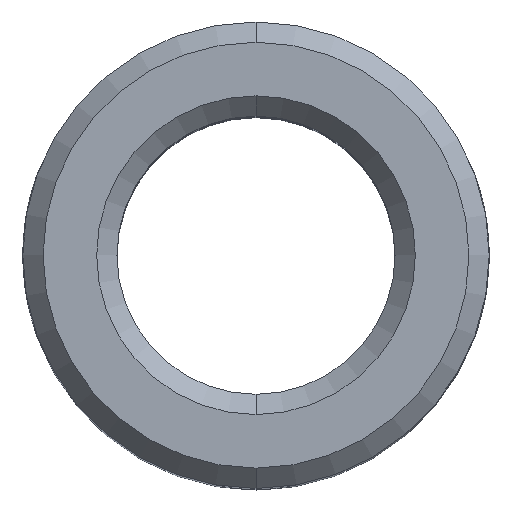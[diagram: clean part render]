
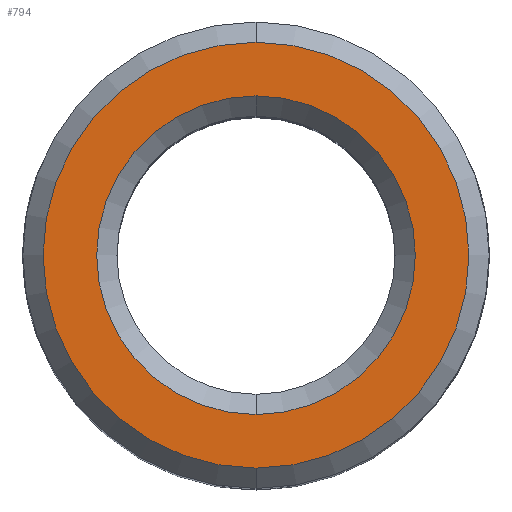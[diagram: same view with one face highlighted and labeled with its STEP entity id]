
A CAD part, top view. The second image highlights one B-rep face of the part: STEP entity #794.
In plain terms, the highlighted planar face has unit normal (0, 0, 1).
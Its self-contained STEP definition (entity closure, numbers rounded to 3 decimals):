
#1 = CARTESIAN_POINT ( 'NONE',  ( 0., 55., 0. ) ) ;
#58 = ORIENTED_EDGE ( 'NONE', *, *, #197, .T. ) ;
#69 = DIRECTION ( 'NONE',  ( 0., 0., -1. ) ) ;
#140 = CIRCLE ( 'NONE', #1012, 73.5 ) ;
#161 = EDGE_CURVE ( 'NONE', #1008, #1388, #140, .T. ) ;
#197 = EDGE_CURVE ( 'NONE', #1388, #1008, #1445, .T. ) ;
#263 = CIRCLE ( 'NONE', #1116, 55. ) ;
#283 = ORIENTED_EDGE ( 'NONE', *, *, #1416, .T. ) ;
#309 = EDGE_LOOP ( 'NONE', ( #488, #283 ) ) ;
#313 = CARTESIAN_POINT ( 'NONE',  ( 0., 0., 0. ) ) ;
#314 = DIRECTION ( 'NONE',  ( 0., 0., 1. ) ) ;
#362 = VERTEX_POINT ( 'NONE', #773 ) ;
#398 = DIRECTION ( 'NONE',  ( 0., 1., 0. ) ) ;
#414 = DIRECTION ( 'NONE',  ( 0., 1., 0. ) ) ;
#488 = ORIENTED_EDGE ( 'NONE', *, *, #934, .T. ) ;
#493 = DIRECTION ( 'NONE',  ( 0., 1., 0. ) ) ;
#540 = ORIENTED_EDGE ( 'NONE', *, *, #161, .T. ) ;
#621 = DIRECTION ( 'NONE',  ( 0., 0., 1. ) ) ;
#623 = DIRECTION ( 'NONE',  ( 0., 1., 0. ) ) ;
#748 = CARTESIAN_POINT ( 'NONE',  ( 0., 73.5, 0. ) ) ;
#756 = DIRECTION ( 'NONE',  ( 0., 0., -1. ) ) ;
#769 = CARTESIAN_POINT ( 'NONE',  ( 0., 0., 0. ) ) ;
#773 = CARTESIAN_POINT ( 'NONE',  ( 0., -55., 0. ) ) ;
#794 = ADVANCED_FACE ( 'NONE', ( #1353, #804 ), #949, .F. ) ;
#804 = FACE_OUTER_BOUND ( 'NONE', #990, .T. ) ;
#807 = CARTESIAN_POINT ( 'NONE',  ( 0., -73.5, 0. ) ) ;
#825 = CARTESIAN_POINT ( 'NONE',  ( 0., 0., 0. ) ) ;
#901 = AXIS2_PLACEMENT_3D ( 'NONE', #825, #621, #623 ) ;
#929 = DIRECTION ( 'NONE',  ( 0., 1., 0. ) ) ;
#934 = EDGE_CURVE ( 'NONE', #362, #1168, #263, .T. ) ;
#940 = DIRECTION ( 'NONE',  ( 0., 0., -1. ) ) ;
#944 = AXIS2_PLACEMENT_3D ( 'NONE', #1421, #69, #398 ) ;
#949 = PLANE ( 'NONE',  #1296 ) ;
#972 = CARTESIAN_POINT ( 'NONE',  ( 0., 48., 0. ) ) ;
#990 = EDGE_LOOP ( 'NONE', ( #58, #540 ) ) ;
#1008 = VERTEX_POINT ( 'NONE', #807 ) ;
#1012 = AXIS2_PLACEMENT_3D ( 'NONE', #313, #314, #414 ) ;
#1063 = CIRCLE ( 'NONE', #944, 55. ) ;
#1116 = AXIS2_PLACEMENT_3D ( 'NONE', #769, #756, #493 ) ;
#1168 = VERTEX_POINT ( 'NONE', #1 ) ;
#1296 = AXIS2_PLACEMENT_3D ( 'NONE', #972, #940, #929 ) ;
#1353 = FACE_BOUND ( 'NONE', #309, .T. ) ;
#1388 = VERTEX_POINT ( 'NONE', #748 ) ;
#1416 = EDGE_CURVE ( 'NONE', #1168, #362, #1063, .T. ) ;
#1421 = CARTESIAN_POINT ( 'NONE',  ( 0., 0., 0. ) ) ;
#1445 = CIRCLE ( 'NONE', #901, 73.5 ) ;
